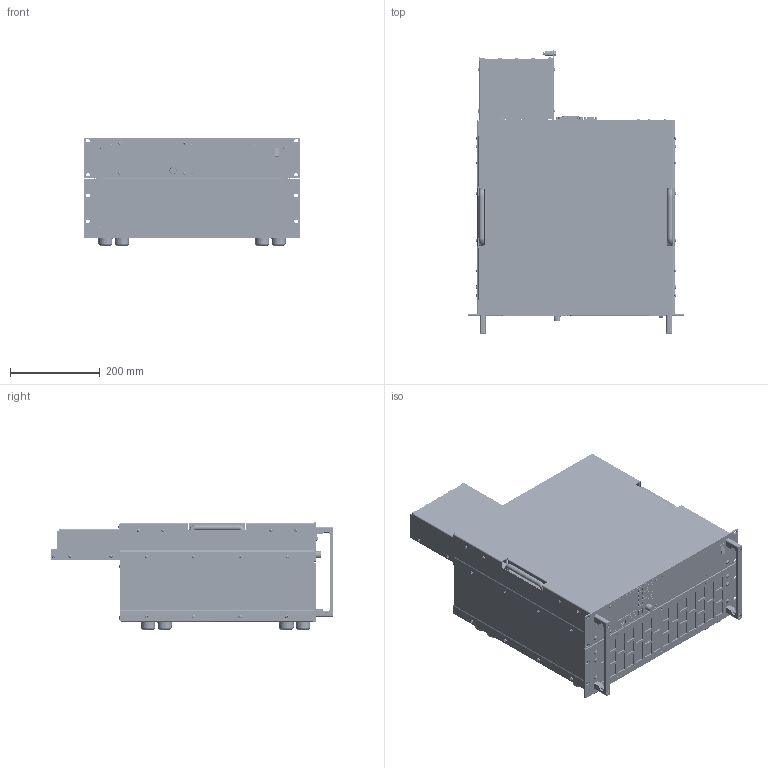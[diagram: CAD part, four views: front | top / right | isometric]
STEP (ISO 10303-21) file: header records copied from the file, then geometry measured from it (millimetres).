
FILE_DESCRIPTION(('STEP AP214'),'1');
FILE_NAME('PLI_M19_19Z_5HE_FKS25_10_SM10_BRB_3D_01.step','2019-02-14T07:57:03',(' '),(' '),'Spatial InterOp 3D',' ',' ');
FILE_SCHEMA(('AUTOMOTIVE_DESIGN { 1 0 10303 214 1 1 1 1 }'));
Length unit declared in the file: millimetre
Products named in the file (1): 1
Bounding box: 482.6 x 631.75 x 239.38 mm (x, y, z)
Volume: 10692701.7 mm3; surface area: 3068300.6 mm2
Topology: 240 solids, 932 shells, 14263 faces, 37776 edges, 25073 vertices
Faces by surface type: plane 6942, cone 4536, cylinder 2351, sphere 214, torus 192, bspline 26, extrusion 2
Entity records: 569464 total; most frequent: CARTESIAN_POINT 82607, DIRECTION 81097, ORIENTED_EDGE 69476, EDGE_CURVE 36838, AXIS2_PLACEMENT_3D 28662, VERTEX_POINT 23932, VECTOR 23773, LINE 23771
